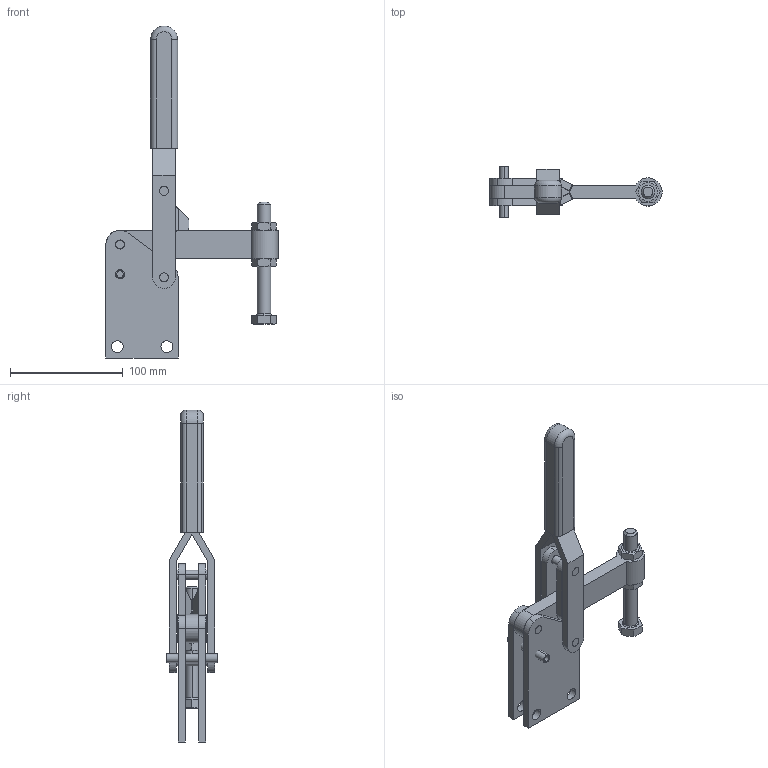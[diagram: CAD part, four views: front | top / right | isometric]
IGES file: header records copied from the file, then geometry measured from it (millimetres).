
Start section:  Level              Description ========  ================================        1  SANDFIELD
Global section: file name: D:/WORK/SANDFIELD/sandfield_3d/Vertical_Action/MG/Mg1/mg1S.IGS; native system: AutoCAD-13_c4a_Mh (HwLock) (Microsoft Windows NT Version 4.0 (x86)); preprocessor: AutoCAD IGES Translator R13.1c2 (Jan 23 1997) from Autodesk, Inc.; author: ProCAD; organization: Sandfield Eng Co.; date: 990520.143459; units: millimetre
Bounding box: 152.5 x 45 x 294 mm (x, y, z)
Volume: 261972.2 mm3; surface area: 92822.9 mm2
Topology: 15 solids, 15 shells, 216 faces, 555 edges, 370 vertices
Faces by surface type: bspline 78, cylinder 66, plane 62, torus 8, cone 2
